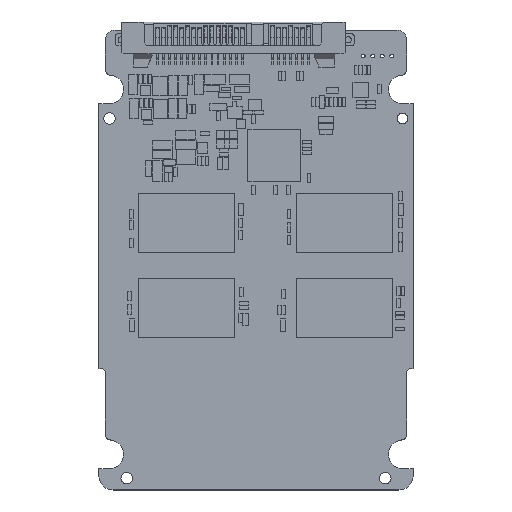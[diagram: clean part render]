
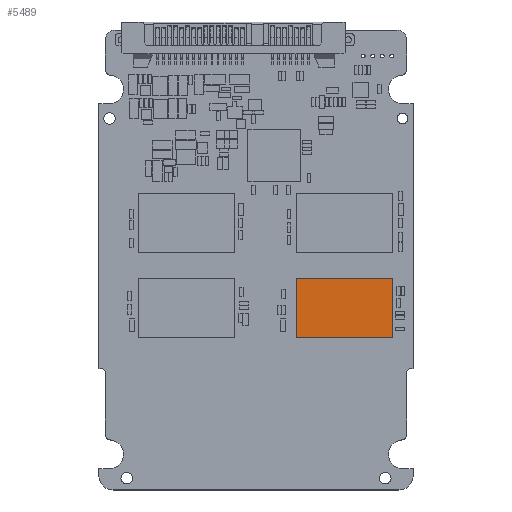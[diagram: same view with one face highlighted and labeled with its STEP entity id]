
A CAD part, top view. The second image highlights one B-rep face of the part: STEP entity #5489.
In plain terms, the highlighted planar face has unit normal (0, 0, 1).
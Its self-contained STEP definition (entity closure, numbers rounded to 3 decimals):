
#5396=DIRECTION('',(0.,1.,0.));
#5397=VECTOR('',#5396,20.2);
#5398=CARTESIAN_POINT('',(6.2,-10.1,1.2));
#5399=LINE('',#5398,#5397);
#5404=DIRECTION('',(-1.,0.,0.));
#5405=VECTOR('',#5404,12.4);
#5406=CARTESIAN_POINT('',(6.2,10.1,1.2));
#5407=LINE('',#5406,#5405);
#5408=DIRECTION('',(1.,0.,0.));
#5409=VECTOR('',#5408,12.4);
#5410=CARTESIAN_POINT('',(-6.2,-10.1,1.2));
#5411=LINE('',#5410,#5409);
#5416=DIRECTION('',(0.,-1.,0.));
#5417=VECTOR('',#5416,20.2);
#5418=CARTESIAN_POINT('',(-6.2,10.1,1.2));
#5419=LINE('',#5418,#5417);
#5428=CARTESIAN_POINT('',(-6.2,-10.1,1.2));
#5429=CARTESIAN_POINT('',(6.2,-10.1,1.2));
#5430=VERTEX_POINT('',#5428);
#5431=VERTEX_POINT('',#5429);
#5432=CARTESIAN_POINT('',(6.2,10.1,1.2));
#5433=CARTESIAN_POINT('',(-6.2,10.1,1.2));
#5434=VERTEX_POINT('',#5432);
#5435=VERTEX_POINT('',#5433);
#5475=CARTESIAN_POINT('',(0.,0.,1.2));
#5476=DIRECTION('',(0.,0.,1.));
#5477=DIRECTION('',(1.,0.,0.));
#5478=AXIS2_PLACEMENT_3D('',#5475,#5476,#5477);
#5479=PLANE('',#5478);
#5481=ORIENTED_EDGE('',*,*,#5480,.F.);
#5483=ORIENTED_EDGE('',*,*,#5482,.F.);
#5484=ORIENTED_EDGE('',*,*,#5465,.F.);
#5486=ORIENTED_EDGE('',*,*,#5485,.F.);
#5487=EDGE_LOOP('',(#5481,#5483,#5484,#5486));
#5488=FACE_OUTER_BOUND('',#5487,.F.);
#5465=EDGE_CURVE('',#5431,#5434,#5399,.T.);
#5480=EDGE_CURVE('',#5435,#5430,#5419,.T.);
#5482=EDGE_CURVE('',#5434,#5435,#5407,.T.);
#5485=EDGE_CURVE('',#5430,#5431,#5411,.T.);
#5489=ADVANCED_FACE('',(#5488),#5479,.T.);
